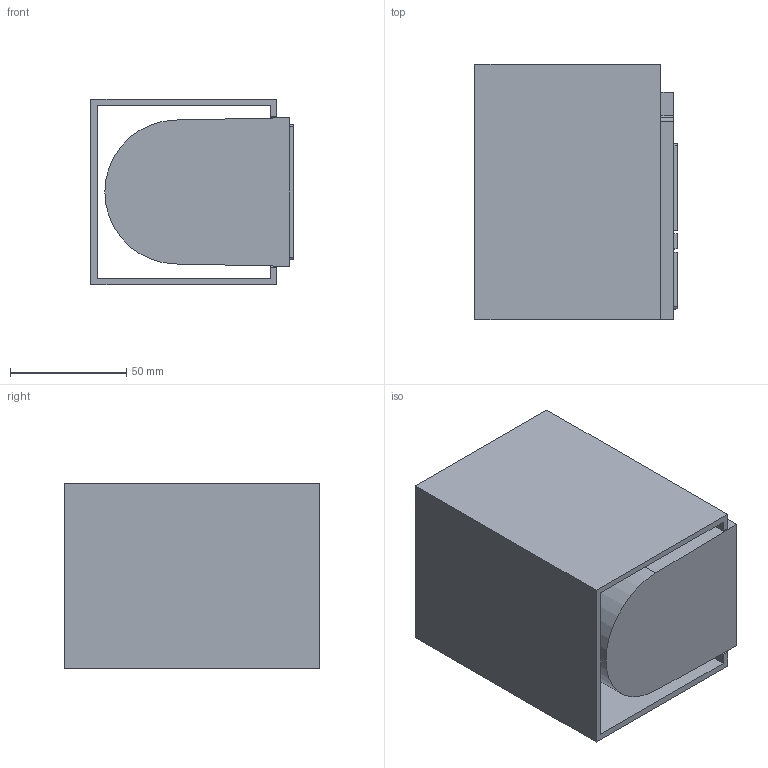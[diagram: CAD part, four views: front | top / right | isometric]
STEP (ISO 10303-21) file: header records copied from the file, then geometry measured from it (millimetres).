
FILE_DESCRIPTION(/* description */ (''),/* implementation_level */ '2;1');
FILE_NAME(/* name */ 'kov_1l_cuadrado_3d.step',/* time_stamp */ '2025-02-20T10:07:40+01:00',/* author */ ('RenataManzini'),/* organization */ (''),/* preprocessor_version */ 'ST-DEVELOPER v20',/* originating_system */ 'AutoCAD Mechanical',/* authorisation */ '');
FILE_SCHEMA (('AUTOMOTIVE_DESIGN { 1 0 10303 214 3 1 1 }'));
Products named in the file (12): Product; Q1258; G0642; M4X08PINGTOULUOSI6J; M5X8JIMILUOSI; F0533; Q1259; Y04-0012; M0732; HKY0B14D316YGL3_1; HKY0B14D316YGL3_2; HKY0B14D316YGL3_4
Assembly tree (14 placements, depth 2):
  Product
    Q1258
    G0642
    M4X08PINGTOULUOSI6J  x2
    M5X8JIMILUOSI  x2
    F0533
    Q1259
    Y04-0012  x2
    M0732
    HKY0B14D316YGL3_1
    HKY0B14D316YGL3_2
    HKY0B14D316YGL3_4
Bounding box: 87 x 110 x 80 mm (x, y, z)
Volume: 236349.6 mm3; surface area: 158922.2 mm2
Topology: 14 solids, 25 shells, 1403 faces, 3766 edges, 2406 vertices
Faces by surface type: plane 692, cylinder 273, cone 197, bspline 163, torus 60, sphere 18
Entity records: 55316 total; most frequent: CARTESIAN_POINT 23913, ORIENTED_EDGE 6820, DIRECTION 5996, EDGE_CURVE 3431, VERTEX_POINT 2214, LINE 2026, VECTOR 2026, AXIS2_PLACEMENT_3D 1985
